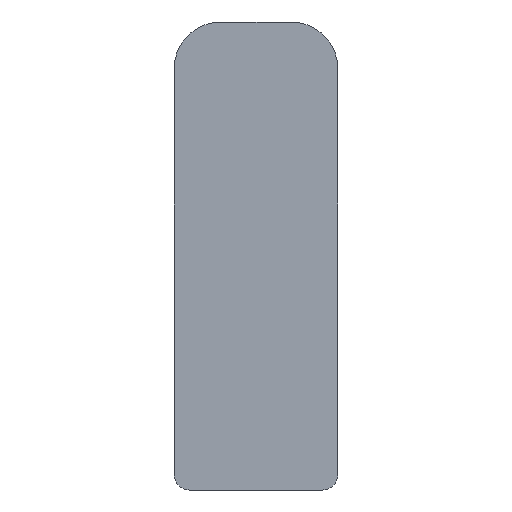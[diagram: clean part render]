
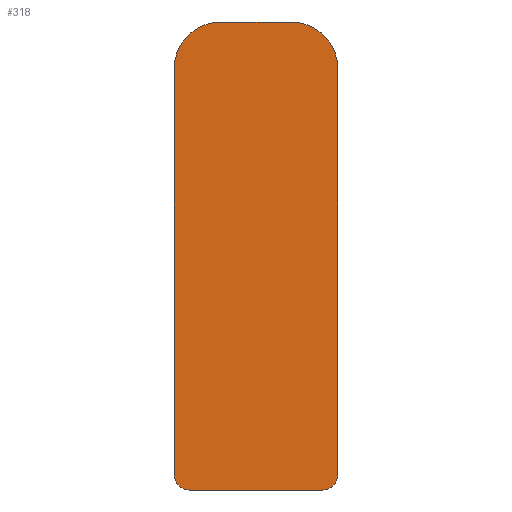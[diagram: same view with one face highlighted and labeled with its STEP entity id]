
A CAD part, left-side view. The second image highlights one B-rep face of the part: STEP entity #318.
In plain terms, the highlighted planar face has unit normal (-1, 0, 0).
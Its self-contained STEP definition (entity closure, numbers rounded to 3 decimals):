
#13 = CIRCLE ( 'NONE', #60, 1. ) ;
#19 = VECTOR ( 'NONE', #201, 1000. ) ;
#20 = LINE ( 'NONE', #202, #19 ) ;
#24 = VECTOR ( 'NONE', #210, 1000. ) ;
#25 = LINE ( 'NONE', #211, #24 ) ;
#27 = CIRCLE ( 'NONE', #141, 3. ) ;
#30 = LINE ( 'NONE', #306, #50 ) ;
#32 = CIRCLE ( 'NONE', #63, 1. ) ;
#45 = FACE_OUTER_BOUND ( 'NONE', #93, .T. ) ;
#50 = VECTOR ( 'NONE', #305, 1000. ) ;
#60 = AXIS2_PLACEMENT_3D ( 'NONE', #194, #193, #191 ) ;
#63 = AXIS2_PLACEMENT_3D ( 'NONE', #218, #217, #216 ) ;
#70 = AXIS2_PLACEMENT_3D ( 'NONE', #250, #247, #246 ) ;
#93 = EDGE_LOOP ( 'NONE', ( #106, #107, #108, #109, #110, #111, #113, #114 ) ) ;
#106 = ORIENTED_EDGE ( 'NONE', *, *, #147, .T. ) ;
#107 = ORIENTED_EDGE ( 'NONE', *, *, #153, .T. ) ;
#108 = ORIENTED_EDGE ( 'NONE', *, *, #156, .T. ) ;
#109 = ORIENTED_EDGE ( 'NONE', *, *, #328, .T. ) ;
#110 = ORIENTED_EDGE ( 'NONE', *, *, #326, .T. ) ;
#111 = ORIENTED_EDGE ( 'NONE', *, *, #331, .T. ) ;
#113 = ORIENTED_EDGE ( 'NONE', *, *, #334, .T. ) ;
#114 = ORIENTED_EDGE ( 'NONE', *, *, #134, .T. ) ;
#126 = CIRCLE ( 'NONE', #143, 3. ) ;
#134 = EDGE_CURVE ( 'NONE', #281, #283, #152, .T. ) ;
#141 = AXIS2_PLACEMENT_3D ( 'NONE', #299, #298, #297 ) ;
#143 = AXIS2_PLACEMENT_3D ( 'NONE', #192, #190, #184 ) ;
#147 = EDGE_CURVE ( 'NONE', #283, #304, #126, .T. ) ;
#151 = VECTOR ( 'NONE', #249, 1000. ) ;
#152 = LINE ( 'NONE', #252, #151 ) ;
#153 = EDGE_CURVE ( 'NONE', #304, #294, #30, .T. ) ;
#156 = EDGE_CURVE ( 'NONE', #294, #260, #27, .T. ) ;
#184 = DIRECTION ( 'NONE',  ( 0., 0., 1. ) ) ;
#190 = DIRECTION ( 'NONE',  ( -1., 0., 0. ) ) ;
#191 = DIRECTION ( 'NONE',  ( 0., 0., -1. ) ) ;
#192 = CARTESIAN_POINT ( 'NONE',  ( -231.25, -2.25, 27. ) ) ;
#193 = DIRECTION ( 'NONE',  ( -1., 0., 0. ) ) ;
#194 = CARTESIAN_POINT ( 'NONE',  ( -231.25, -4.25, 1. ) ) ;
#201 = DIRECTION ( 'NONE',  ( 0., -1., 0. ) ) ;
#202 = CARTESIAN_POINT ( 'NONE',  ( -231.25, -4.25, 0. ) ) ;
#210 = DIRECTION ( 'NONE',  ( 0., 0., -1. ) ) ;
#211 = CARTESIAN_POINT ( 'NONE',  ( -231.25, 5.25, 1. ) ) ;
#216 = DIRECTION ( 'NONE',  ( 0., 0., -1. ) ) ;
#217 = DIRECTION ( 'NONE',  ( -1., 0., 0. ) ) ;
#218 = CARTESIAN_POINT ( 'NONE',  ( -231.25, 4.25, 1. ) ) ;
#246 = DIRECTION ( 'NONE',  ( 0., 0., 1. ) ) ;
#247 = DIRECTION ( 'NONE',  ( -1., 0., 0. ) ) ;
#249 = DIRECTION ( 'NONE',  ( 0., 0., 1. ) ) ;
#250 = CARTESIAN_POINT ( 'NONE',  ( -231.25, -2.25, 27. ) ) ;
#251 = PLANE ( 'NONE',  #70 ) ;
#252 = CARTESIAN_POINT ( 'NONE',  ( -231.25, -5.25, 1. ) ) ;
#256 = VERTEX_POINT ( 'NONE', #285 ) ;
#260 = VERTEX_POINT ( 'NONE', #284 ) ;
#264 = VERTEX_POINT ( 'NONE', #282 ) ;
#269 = CARTESIAN_POINT ( 'NONE',  ( -231.25, -2.25, 30. ) ) ;
#271 = CARTESIAN_POINT ( 'NONE',  ( -231.25, 2.25, 30. ) ) ;
#273 = CARTESIAN_POINT ( 'NONE',  ( -231.25, 4.25, 0. ) ) ;
#275 = CARTESIAN_POINT ( 'NONE',  ( -231.25, -5.25, 27. ) ) ;
#276 = CARTESIAN_POINT ( 'NONE',  ( -231.25, -5.25, 1. ) ) ;
#281 = VERTEX_POINT ( 'NONE', #276 ) ;
#282 = CARTESIAN_POINT ( 'NONE',  ( -231.25, 5.25, 1. ) ) ;
#283 = VERTEX_POINT ( 'NONE', #275 ) ;
#284 = CARTESIAN_POINT ( 'NONE',  ( -231.25, 5.25, 27. ) ) ;
#285 = CARTESIAN_POINT ( 'NONE',  ( -231.25, -4.25, 0. ) ) ;
#290 = VERTEX_POINT ( 'NONE', #273 ) ;
#294 = VERTEX_POINT ( 'NONE', #271 ) ;
#297 = DIRECTION ( 'NONE',  ( 0., 0., -1. ) ) ;
#298 = DIRECTION ( 'NONE',  ( -1., 0., 0. ) ) ;
#299 = CARTESIAN_POINT ( 'NONE',  ( -231.25, 2.25, 27. ) ) ;
#304 = VERTEX_POINT ( 'NONE', #269 ) ;
#305 = DIRECTION ( 'NONE',  ( 0., 1., 0. ) ) ;
#306 = CARTESIAN_POINT ( 'NONE',  ( -231.25, -2.25, 30. ) ) ;
#318 = ADVANCED_FACE ( 'NONE', ( #45 ), #251, .T. ) ;
#326 = EDGE_CURVE ( 'NONE', #264, #290, #32, .T. ) ;
#328 = EDGE_CURVE ( 'NONE', #260, #264, #25, .T. ) ;
#331 = EDGE_CURVE ( 'NONE', #290, #256, #20, .T. ) ;
#334 = EDGE_CURVE ( 'NONE', #256, #281, #13, .T. ) ;
